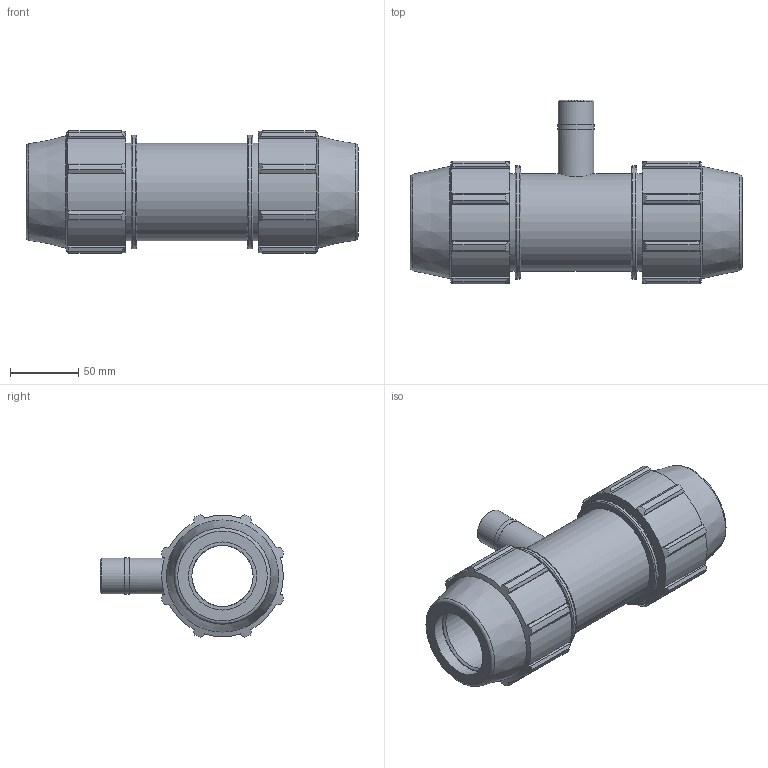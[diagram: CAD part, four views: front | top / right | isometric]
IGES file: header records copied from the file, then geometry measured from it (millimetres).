
Global section: file name: 078100050007_188100050007_0781060500070A.ipt; native system: Autodesk Inventor 2015; preprocessor: unknown; author: Кирилл,,11,0; organization: 20170224.180708; date: 20170606.172409; units: millimetre
Bounding box: 244 x 135.16 x 90.33 mm (x, y, z)
Volume: 787054.8 mm3; surface area: 126475.6 mm2
Topology: 1 solids, 1 shells, 154 faces, 433 edges, 293 vertices
Faces by surface type: plane 79, cylinder 40, cone 21, revolution 14
Full cylindrical faces by diameter (mm): 26.441 x2, 26.97 x1, 72 x3, 83.52 x2
